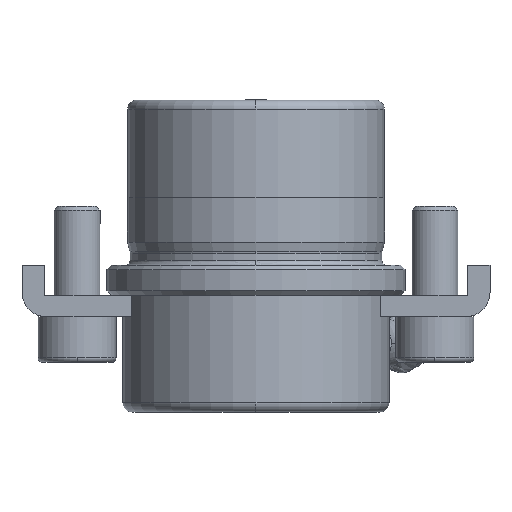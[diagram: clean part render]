
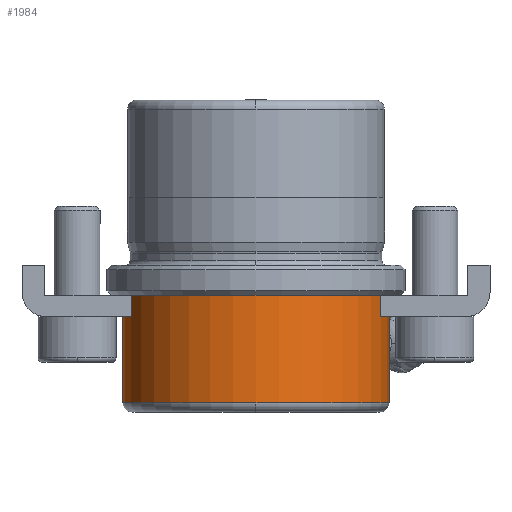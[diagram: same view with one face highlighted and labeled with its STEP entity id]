
A CAD part, front view. The second image highlights one B-rep face of the part: STEP entity #1984.
In plain terms, the highlighted cylindrical face has radius 14.5 mm (diameter 29 mm), a partial arc.
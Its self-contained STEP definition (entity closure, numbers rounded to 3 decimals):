
#412=CARTESIAN_POINT('',(0.,-14.5,-15.));
#413=VERTEX_POINT('',#412);
#421=CARTESIAN_POINT('',(-14.5,0.,-15.0));
#422=VERTEX_POINT('',#421);
#423=CARTESIAN_POINT('',(0.0,0.,-15.0));
#424=DIRECTION('',(0.0,0.0,-1.0));
#425=DIRECTION('',(1.0,0.0,0.0));
#426=AXIS2_PLACEMENT_3D('',#423,#424,#425);
#427=CIRCLE('',#426,14.5);
#428=EDGE_CURVE('',#413,#422,#427,.T.);
#445=CARTESIAN_POINT('',(14.5,0.,-15.0));
#446=VERTEX_POINT('',#445);
#447=CARTESIAN_POINT('',(14.5,0.,-3.3));
#448=VERTEX_POINT('',#447);
#449=CARTESIAN_POINT('',(14.5,0.,-15.0));
#450=DIRECTION('',(0.0,0.0,1.0));
#451=VECTOR('',#450,11.7);
#452=LINE('',#449,#451);
#453=EDGE_CURVE('',#446,#448,#452,.T.);
#463=CARTESIAN_POINT('',(-14.5,0.,-3.3));
#464=VERTEX_POINT('',#463);
#465=CARTESIAN_POINT('',(-14.5,0.,-15.0));
#466=DIRECTION('',(0.0,0.0,1.0));
#467=VECTOR('',#466,11.7);
#468=LINE('',#465,#467);
#469=EDGE_CURVE('',#422,#464,#468,.T.);
#1955=CARTESIAN_POINT('',(0.0,0.,-3.3));
#1956=DIRECTION('',(0.0,0.0,-1.0));
#1957=DIRECTION('',(1.0,0.0,0.0));
#1958=AXIS2_PLACEMENT_3D('',#1955,#1956,#1957);
#1959=CIRCLE('',#1958,14.5);
#1960=EDGE_CURVE('',#448,#464,#1959,.T.);
#1966=CARTESIAN_POINT('',(0.0,0.,-2.715));
#1967=DIRECTION('',(0.0,0.0,-1.0));
#1968=DIRECTION('',(1.0,0.0,0.0));
#1969=AXIS2_PLACEMENT_3D('',#1966,#1967,#1968);
#1970=CYLINDRICAL_SURFACE('',#1969,14.5);
#1971=ORIENTED_EDGE('',*,*,#453,.T.);
#1972=ORIENTED_EDGE('',*,*,#1960,.T.);
#1973=ORIENTED_EDGE('',*,*,#469,.F.);
#1974=ORIENTED_EDGE('',*,*,#428,.F.);
#1975=CARTESIAN_POINT('',(0.0,0.,-15.0));
#1976=DIRECTION('',(0.0,0.0,-1.0));
#1977=DIRECTION('',(1.0,0.0,0.0));
#1978=AXIS2_PLACEMENT_3D('',#1975,#1976,#1977);
#1979=CIRCLE('',#1978,14.5);
#1980=EDGE_CURVE('',#446,#413,#1979,.T.);
#1981=ORIENTED_EDGE('',*,*,#1980,.F.);
#1982=EDGE_LOOP('',(#1971,#1972,#1973,#1974,#1981));
#1983=FACE_OUTER_BOUND('',#1982,.T.);
#1984=ADVANCED_FACE('',(#1983),#1970,.T.);
